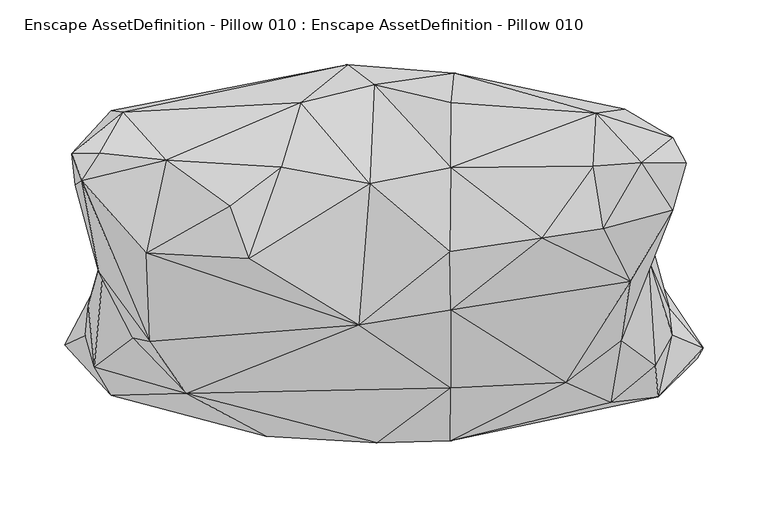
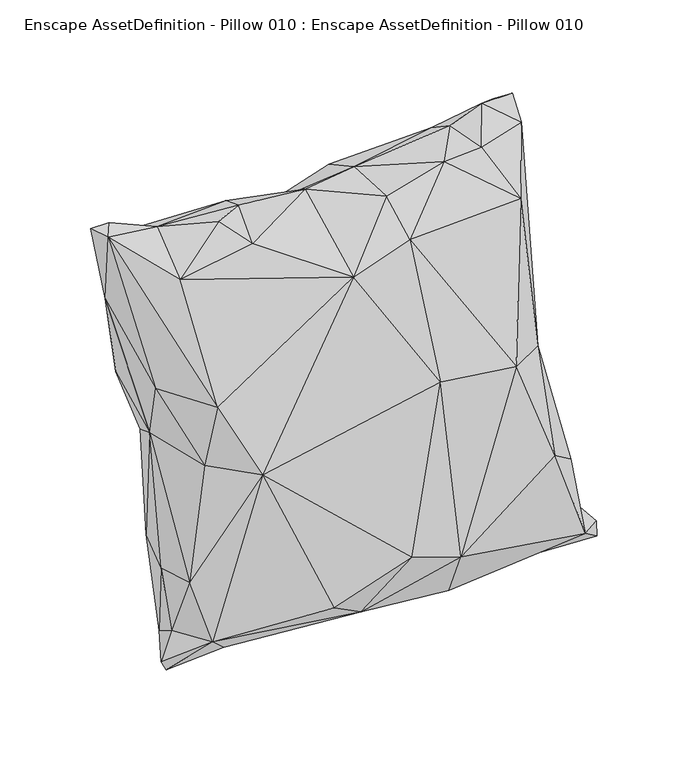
"""IFC4 building model written with IfcOpenShell, lengths in millimetres: geographic element geometry, Enscape AssetDefinition - Pillow 010 : Enscape AssetDefinition - Pillow 010."""

from ifc_helpers import new_model, si_unit, origin, place, context, project, spatial, faceted_brep, source, transform, mapped, element, save


def enscape_assetdefinition_pillow_010_enscape_assetdefinition_9ece25b9(model_context):
    return source(origin(), model_context, "Body", "Brep", [
        faceted_brep([(218.9279944, 29.809, 197.1549988), (220.1679945, 3.3789999, 207.3200047), (236.4519984, -34.7190015, 23.8189995), (238.5700047, 52.6160002, 359.254986), (239.1240001, 40.9229994, 426.4340103), (199.454993, -59.9200018, 233.2099974), (225.7290035, -78.9889991, 99.7809991), (238.8159931, -55.585999, 32.7529982), (249.7739941, 77.0590007, 435.7520044), (239.3729985, 96.9000012, 420.9260046), (215.2130008, 77.5929987, 435.5559945), (202.143997, 119.1390008, 329.9170136), (180.1699996, 115.8450022, 395.4809904), (190.6750053, 78.7039995, 164.4710004), (177.6880026, 75.1029998, 423.022002), (185.3930056, 26.4539998, 424.1049886), (70.3269988, 146.6509998, 328.7689984), (68.2699978, 123.9719987, 385.8740032), (67.9240003, 73.9289969, 413.2390022), (162.4220014, 98.9329964, 163.0399972), (203.5779953, 23.5590003, 40.2659997), (70.6859976, 55.0169982, 36.412999), (71.3260025, 112.0869964, 172.8470027), (71.8799978, 33.7800011, 6.1940001), (-12.0000001, 55.3020015, 24.1129994), (-11.8840002, 153.3609927, 318.2420135), (-115.2459979, 106.013, 148.567006), (-151.7580003, 112.6929969, 211.8889987), (-164.398998, 50.4590012, 66.9229999), (-200.5839944, 77.5900036, 258.8340044), (-194.6399957, 117.666997, 357.2820127), (-192.7939951, 43.393001, 208.107993), (-88.3470029, 18.1060005, -7.0099998), (-205.2789927, -15.9699991, 6.6999998), (-195.6419945, 25.8569997, 92.7930027), (-199.0610063, 13.0989999, 224.1850048), (-222.307995, 60.1999983, 364.6500111), (-212.3160064, -32.3810019, 93.8209966), (-207.6269984, -80.2069977, 103.7729979), (-204.0580064, -7.1120001, 291.3070023), (-177.9160053, -57.9879992, 220.483005), (-214.4809961, -56.0769998, 34.3630016), (-136.4499927, -100.6439999, 220.3339934), (-194.3719983, -102.4189964, 41.3840003), (-164.9670005, -60.6830008, 287.1130109), (-217.197001, 63.8319999, 434.3949854), (-3.242, -47.9520001, 379.4510067), (-167.5859988, 7.7800001, 399.9069929), (-225.060001, 84.5850036, 435.1229966), (-203.5299987, 84.9080011, 434.3479872), (-152.1839947, 79.4499964, 414.6159887), (-102.9290035, 43.9400002, 424.980998), (-88.2799998, 3.331, 418.2479978), (-63.0490035, 74.1420016, 412.4779999), (-48.2739992, 123.8019988, 382.5469911), (-185.4780018, 116.4840013, 393.4200108), (8.6390004, 137.9369944, 351.7290056), (5.07, 61.5309998, 415.9120023), (67.0339987, 8.7179998, 417.6050127), (138.2279992, 19.1050004, 427.5139868), (67.7839965, -36.3250002, 392.3369944), (67.7819997, -96.7409983, 257.9160035), (156.5379947, -92.3990011, 242.9720014), (206.5809965, -14.1489999, 379.8139989), (191.2959963, -107.7380031, 133.5359961), (67.1930015, -137.6650035, 72.9399994), (228.1910032, -103.4590006, 24.1279993), (65.8980012, -116.0679981, 20.5090009), (10.9609999, -139.1180009, 92.8379968), (-37.06, -121.7639968, 33.7399989), (64.5600036, -66.0789981, -7.4490001), (167.4280018, -71.8159974, -4.8349998), (131.6729933, -10.8759999, -13.3819999), (258.3369911, -73.8089979, -7.5210002), (65.7690018, -12.8640002, -13.5709997), (-23.3420003, -8.4119998, -5.8829999), (-22.1229997, -63.8189986, -1.931), (-84.7939998, -61.4229999, -1.16), (262.8630102, -65.5980036, 3.857), (-157.3130041, -59.2649989, -4.3910001), (-225.9459943, -65.7590032, -3.21), (-230.5199951, -63.2570013, 6.2540001), (-74.8860016, -134.1129988, 59.3219995)], [[[0, 1, 2]], [[3, 4, 1]], [[5, 6, 1]], [[1, 4, 5]], [[1, 6, 7]], [[2, 1, 7]], [[3, 1, 0]], [[8, 4, 3]], [[3, 0, 9]], [[8, 3, 9]], [[8, 9, 10]], [[10, 4, 8]], [[9, 11, 12]], [[9, 0, 13]], [[11, 9, 13]], [[10, 9, 12]], [[10, 12, 14]], [[15, 4, 10]], [[14, 15, 10]], [[11, 16, 12]], [[12, 16, 17]], [[14, 12, 18]], [[18, 12, 17]], [[11, 13, 19]], [[16, 11, 19]], [[0, 20, 13]], [[13, 20, 19]], [[20, 21, 19]], [[19, 21, 22]], [[16, 19, 22]], [[20, 23, 21]], [[21, 24, 22]], [[23, 24, 21]], [[16, 22, 25]], [[25, 22, 26]], [[22, 24, 26]], [[26, 27, 25]], [[24, 28, 26]], [[27, 26, 28]], [[27, 29, 30]], [[27, 28, 31]], [[25, 27, 30]], [[27, 31, 29]], [[32, 33, 28]], [[28, 33, 34]], [[24, 32, 28]], [[31, 28, 34]], [[29, 31, 35]], [[31, 34, 35]], [[36, 30, 29]], [[36, 29, 35]], [[35, 37, 38]], [[39, 35, 40]], [[40, 35, 38]], [[35, 34, 37]], [[36, 35, 39]], [[37, 34, 33]], [[37, 33, 41]], [[38, 37, 41]], [[38, 42, 40]], [[43, 42, 38]], [[43, 38, 41]], [[39, 40, 44]], [[40, 42, 44]], [[36, 39, 45]], [[45, 39, 44]], [[44, 42, 46]], [[47, 44, 46]], [[47, 45, 44]], [[48, 36, 45]], [[49, 45, 50]], [[48, 45, 49]], [[50, 45, 47]], [[50, 47, 51]], [[46, 52, 47]], [[47, 52, 51]], [[50, 53, 54]], [[50, 54, 55]], [[50, 55, 49]], [[51, 53, 50]], [[48, 49, 55]], [[48, 30, 36]], [[48, 55, 30]], [[25, 55, 54]], [[55, 25, 30]], [[54, 56, 25]], [[57, 56, 54]], [[57, 54, 53]], [[52, 57, 53]], [[53, 51, 52]], [[57, 52, 46]], [[57, 46, 58]], [[18, 56, 57]], [[57, 58, 18]], [[17, 16, 56]], [[16, 25, 56]], [[17, 56, 18]], [[58, 59, 18]], [[18, 59, 14]], [[58, 60, 59]], [[58, 46, 60]], [[61, 60, 46]], [[46, 42, 61]], [[61, 62, 60]], [[60, 62, 63]], [[59, 60, 63]], [[59, 15, 14]], [[59, 63, 15]], [[63, 4, 15]], [[62, 5, 63]], [[63, 5, 4]], [[62, 64, 5]], [[61, 65, 62]], [[62, 65, 64]], [[5, 64, 6]], [[64, 66, 6]], [[65, 66, 64]], [[67, 66, 65]], [[68, 69, 65]], [[61, 68, 65]], [[65, 69, 67]], [[70, 71, 67]], [[67, 71, 66]], [[69, 70, 67]], [[71, 70, 72]], [[73, 71, 72]], [[66, 71, 73]], [[74, 70, 75]], [[76, 70, 69]], [[72, 70, 74]], [[75, 70, 76]], [[74, 75, 24]], [[76, 77, 75]], [[24, 75, 32]], [[75, 77, 32]], [[72, 74, 23]], [[23, 74, 24]], [[20, 72, 23]], [[2, 20, 0]], [[78, 72, 20]], [[2, 78, 20]], [[2, 7, 78]], [[73, 72, 78]], [[66, 73, 78]], [[7, 66, 78]], [[7, 6, 66]], [[32, 77, 79]], [[32, 79, 33]], [[80, 79, 43]], [[43, 79, 69]], [[33, 79, 80]], [[69, 79, 77]], [[33, 80, 81]], [[33, 81, 41]], [[43, 81, 80]], [[42, 43, 82]], [[43, 41, 81]], [[82, 43, 69]], [[77, 76, 69]], [[82, 69, 68]], [[82, 68, 42]], [[42, 68, 61]]]),
    ])


if __name__ == "__main__":
    model = new_model("IFC4")
    model_context = context("Model", 3, world=origin())
    ifc_project = project(units=[si_unit("LENGTHUNIT", "METRE", prefix="MILLI")], contexts=[model_context])
    site = spatial("IfcSite", under=ifc_project)
    building = spatial("IfcBuilding", under=site)
    placement = place(None, origin())
    enscape_assetdefinition_pillow_010_enscape_assetdefinition_shape = enscape_assetdefinition_pillow_010_enscape_assetdefinition_9ece25b9(model_context)
    element("IfcGeographicElement", 1, ObjectType="Enscape AssetDefinition - Pillow 010 : Enscape AssetDefinition - Pillow 010", at=placement, inside=building, context=model_context, shape_type="MappedRepresentation", body=[
        mapped(enscape_assetdefinition_pillow_010_enscape_assetdefinition_shape, transform((0.0, 0.0, 0.0), x_axis=(1.0, 0.0, 0.0), y_axis=(0.0, 1.0, 0.0), z_axis=(0.0, 0.0, 1.0))),
    ])
    save(model, "model.ifc")
